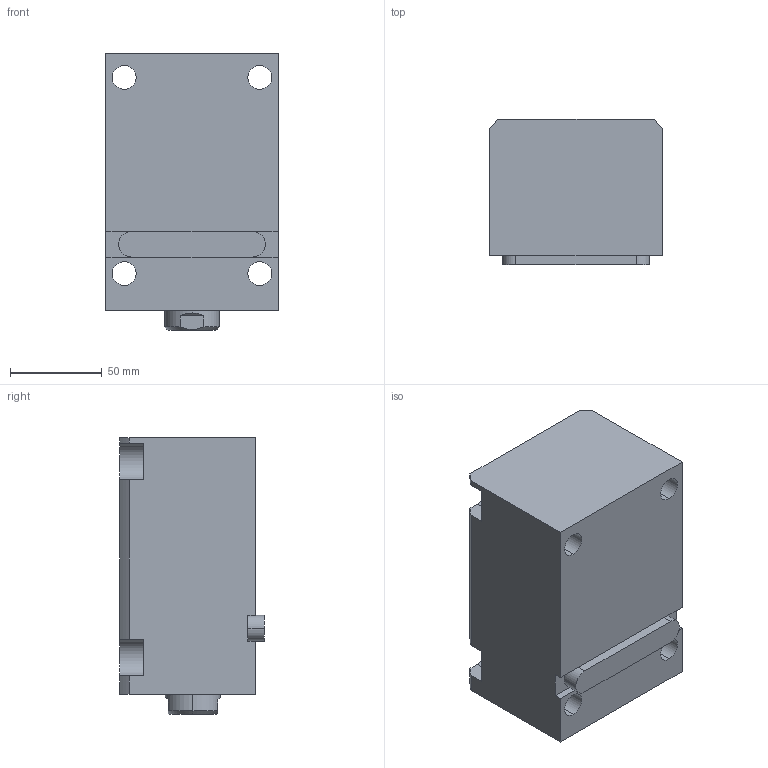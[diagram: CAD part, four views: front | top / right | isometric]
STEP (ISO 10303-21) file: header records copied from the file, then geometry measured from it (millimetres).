
FILE_DESCRIPTION (( 'STEP AP203' ), '1' );
FILE_NAME ('CHTB-LA50-80N.STEP', '2018-05-18T01:49:29', ( '' ), ( '' ), 'SwSTEP 2.0', 'SolidWorks 2015', '' );
FILE_SCHEMA (( 'CONFIG_CONTROL_DESIGN' ));
Length unit declared in the file: millimetre
Products named in the file (4): 掛极LA50-80N; CHTB-LA50-80N; CHTM-SDMA50QG; 活塞杆LA50-80N
Assembly tree (3 placements, depth 2):
  CHTB-LA50-80N
    掛极LA50-80N
    活塞杆LA50-80N
    CHTM-SDMA50QG
Bounding box: 94 x 79 x 151 mm (x, y, z)
Volume: 816679.4 mm3; surface area: 130153.7 mm2
Topology: 3 solids, 3 shells, 202 faces, 542 edges, 358 vertices
Faces by surface type: cylinder 96, plane 53, cone 23, torus 16, bspline 14
Entity records: 11255 total; most frequent: CARTESIAN_POINT 5992, ORIENTED_EDGE 1072, DIRECTION 958, EDGE_CURVE 536, AXIS2_PLACEMENT_3D 377, VERTEX_POINT 358, EDGE_LOOP 234, LINE 204
